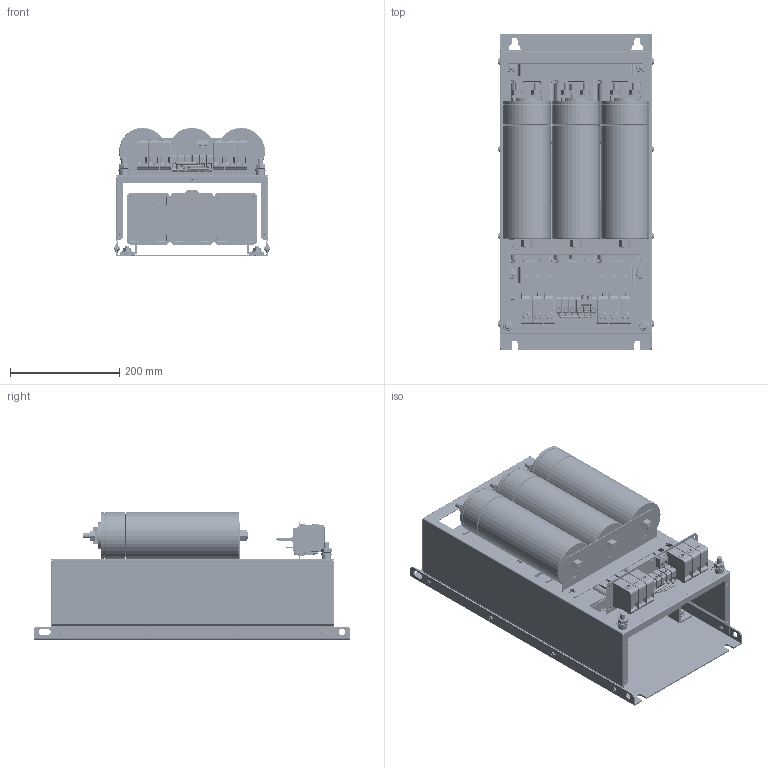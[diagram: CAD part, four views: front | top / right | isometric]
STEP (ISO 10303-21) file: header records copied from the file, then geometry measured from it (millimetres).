
FILE_DESCRIPTION(/* description */ (''),/* implementation_level */ '2;1');
FILE_NAME(/* name */ 'C:\Users\Erika.Jenzer\OneDrive - Schaffner EMV AG\Desktop\Plutus Customer STEP\CUSTOMER IP00 FS D.stp',/* time_stamp */ '2023-05-12T09:20:49+02:00',/* author */ ('erika.jenzer'),/* organization */ (''),/* preprocessor_version */ 'ST-DEVELOPER v18.1',/* originating_system */ 'Autodesk Inventor 2020',/* authorisation */ '');
FILE_SCHEMA (('AUTOMOTIVE_DESIGN { 1 0 10303 214 3 1 1 }'));
Products named in the file (1): CUSTOMER IP00 FS D
Bounding box: 286.53 x 580 x 235 mm (x, y, z)
Volume: 12760219.6 mm3; surface area: 1882035.5 mm2
Topology: 5 solids, 5 shells, 8788 faces, 21750 edges, 13190 vertices
Faces by surface type: plane 3745, cylinder 2927, bspline 1324, cone 377, torus 307, sphere 108
Full cylindrical faces by diameter (mm): 1 x14, 2.8 x2, 3.242 x8, 4 x2, 4.8 x9, 5 x16, 5.1 x6, 5.5 x17, 6 x6, 6.5 x4, 6.8 x6, 7 x8, 7.9 x8, 8 x10, 8.7 x4, 9.188 x2, 9.9 x3, 10 x16, 10.5 x2, 11 x8, 12 x15, 12.5 x1, 12.7 x3, 14 x4, 14.5 x1, 15.4 x2, 16.5 x2, 16.8 x4, 20 x11, 48 x3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
Entity records: 297857 total; most frequent: CARTESIAN_POINT 85116, ORIENTED_EDGE 43212, DIRECTION 41917, EDGE_CURVE 21606, AXIS2_PLACEMENT_3D 14840, VERTEX_POINT 13190, LINE 12237, VECTOR 12237
